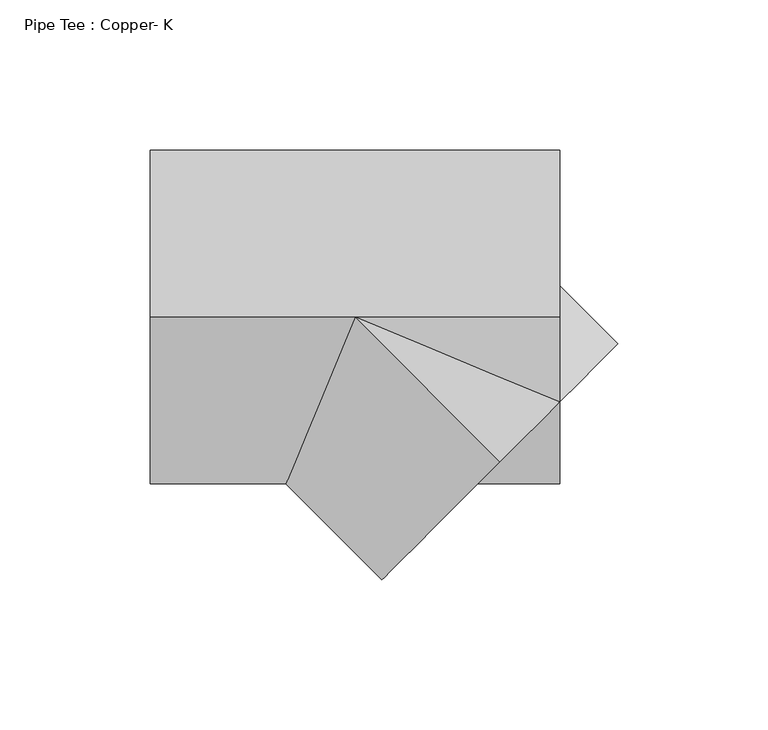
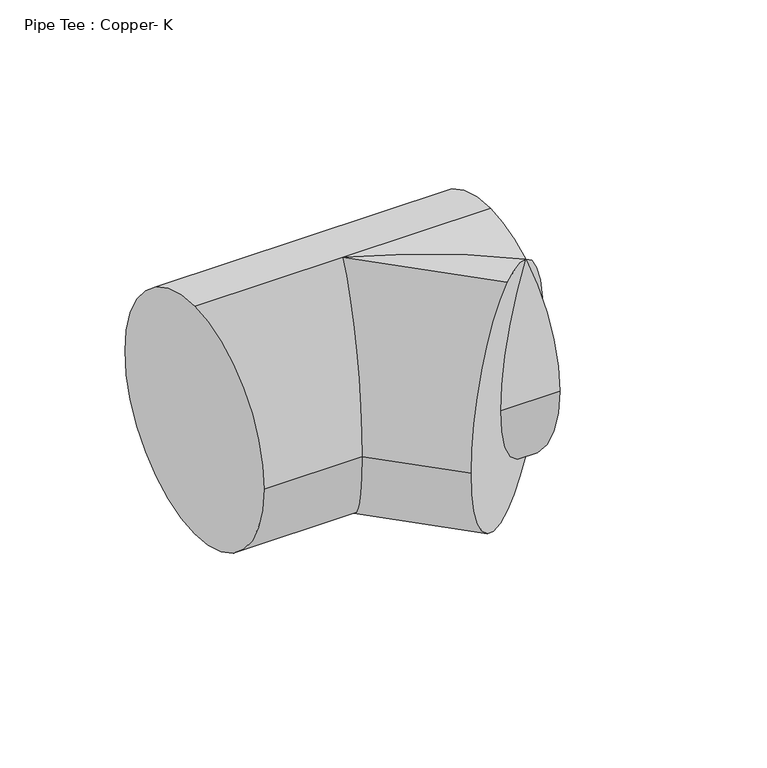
"""IFC4 building model written with IfcOpenShell, lengths in millimetres: pipe fitting geometry, Pipe Tee : Copper- K."""

from ifc_helpers import new_model, si_unit, frame, origin, place, context, project, spatial, circle_curve, ellipse_curve, source, transform, mapped, element, save
from ifc_brep_helpers import plane_surface, cylinder_surface, advanced_brep


def pipe_tee_copper_k_0c7b4938(model_context):
    return source(origin(), model_context, "Body", "AdvancedBrep", [
        advanced_brep(
        [(-68.2625, 0.0, 55.5625), (-68.2625, 55.5625, 0.0), (-68.2625, 0.0, -55.5625), (-68.2625, -55.5625, 0.0), (68.2625, 0.0, -55.5625), (68.2625, 55.5625, 0.0), (68.2625, 0.0, 55.5625), (68.2625, -28.2752533, 47.8299222), (68.2625, 10.3147411, 0.0), (68.2625, -28.2752533, -47.8299222), (68.2625, -55.5625, 0.0), (0.0, 0.0, 55.5625), (0.0, 0.0, -55.5625), (-23.0147411, -55.5625, 0.0), (40.9752533, -55.5625, 0.0), (48.2688767, -48.2688767, 55.5625), (8.9802561, -87.5574972, 0.0), (48.2688767, -48.2688767, -55.5625), (87.5574972, -8.9802561, 0.0)],
        [
            (0, 1, circle_curve(frame((-68.2625, 0.0, 0.0), z_axis=(-1.0, 0.0, 0.0), x_axis=(0.0, 1.0, 0.0)), 55.5625)),
            (1, 2, circle_curve(frame((-68.2625, 0.0, 0.0), z_axis=(-1.0, 0.0, 0.0), x_axis=(0.0, 1.0, 0.0)), 55.5625)),
            (2, 3, circle_curve(frame((-68.2625, 0.0, 0.0), z_axis=(-1.0, 0.0, 0.0), x_axis=(0.0, 1.0, 0.0)), 55.5625)),
            (3, 0, circle_curve(frame((-68.2625, 0.0, 0.0), z_axis=(-1.0, 0.0, 0.0), x_axis=(0.0, 1.0, 0.0)), 55.5625)),
            (4, 5, circle_curve(frame((68.2625, 0.0, 0.0), z_axis=(1.0, 0.0, 0.0), x_axis=(0.0, 1.0, 0.0)), 55.5625)),
            (5, 6, circle_curve(frame((68.2625, 0.0, 0.0), z_axis=(1.0, 0.0, 0.0), x_axis=(0.0, 1.0, 0.0)), 55.5625)),
            (6, 7, circle_curve(frame((68.2625, 0.0, 0.0), z_axis=(1.0, 0.0, 0.0), x_axis=(0.0, 1.0, 0.0)), 55.5625)),
            (7, 8, ellipse_curve(frame((68.2625, -68.2625, 0.0), z_axis=(-1.0, 0.0, 0.0), x_axis=(0.0, 1.0, 0.0)), 78.5772411, 55.5625)),
            (8, 9, ellipse_curve(frame((68.2625, -68.2625, 0.0), z_axis=(-1.0, 0.0, 0.0), x_axis=(0.0, 1.0, 0.0)), 78.5772411, 55.5625)),
            (9, 4, circle_curve(frame((68.2625, 0.0, 0.0), z_axis=(1.0, 0.0, 0.0), x_axis=(0.0, 1.0, 0.0)), 55.5625)),
            (7, 10, circle_curve(frame((68.2625, 0.0, 0.0), z_axis=(1.0, 0.0, 0.0), x_axis=(0.0, 1.0, 0.0)), 55.5625)),
            (10, 9, circle_curve(frame((68.2625, 0.0, 0.0), z_axis=(1.0, 0.0, 0.0), x_axis=(0.0, 1.0, 0.0)), 55.5625)),
            (9, 7),
            (0, 11),
            (11, 6),
            (5, 1),
            (4, 12),
            (12, 2),
            (12, 13, ellipse_curve(frame((0.0, 0.0, 0.0), z_axis=(-0.9238795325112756, 0.3826834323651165, 0.0), x_axis=(-0.3826834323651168, -0.9238795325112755, 0.0)), 60.1404166, 55.5625)),
            (13, 3),
            (9, 12, ellipse_curve(frame((0.0, 0.0, 0.0), z_axis=(0.38268343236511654, 0.9238795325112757, 0.0), x_axis=(-0.9238795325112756, 0.38268343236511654, 0.0)), 145.1918095, 55.5625)),
            (10, 14),
            (14, 9, ellipse_curve(frame((96.5377533, 0.0, 0.0), z_axis=(0.7071067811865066, -0.7071067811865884, 0.0), x_axis=(-0.7071067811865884, -0.7071067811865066, 0.0)), 78.5772411, 55.5625)),
            (13, 11, ellipse_curve(frame((0.0, 0.0, 0.0), z_axis=(-0.9238795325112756, 0.3826834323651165, 0.0), x_axis=(-0.3826834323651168, -0.9238795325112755, 0.0)), 60.1404166, 55.5625)),
            (11, 7, ellipse_curve(frame((0.0, 0.0, 0.0), z_axis=(0.38268343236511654, 0.9238795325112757, 0.0), x_axis=(-0.9238795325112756, 0.38268343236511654, 0.0)), 145.1918095, 55.5625)),
            (7, 14, ellipse_curve(frame((96.5377533, 0.0, 0.0), z_axis=(0.7071067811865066, -0.7071067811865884, 0.0), x_axis=(-0.7071067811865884, -0.7071067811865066, 0.0)), 78.5772411, 55.5625)),
            (15, 16, circle_curve(frame((48.2688767, -48.2688767, 0.0), z_axis=(0.7071067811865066, -0.7071067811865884, 0.0), x_axis=(0.7071067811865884, 0.7071067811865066, 0.0)), 55.5625)),
            (16, 17, circle_curve(frame((48.2688767, -48.2688767, 0.0), z_axis=(0.7071067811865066, -0.7071067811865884, 0.0), x_axis=(0.7071067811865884, 0.7071067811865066, 0.0)), 55.5625)),
            (17, 9, circle_curve(frame((48.2688767, -48.2688767, 0.0), z_axis=(0.7071067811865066, -0.7071067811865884, 0.0), x_axis=(0.7071067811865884, 0.7071067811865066, 0.0)), 55.5625)),
            (7, 15, circle_curve(frame((48.2688767, -48.2688767, 0.0), z_axis=(0.7071067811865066, -0.7071067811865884, 0.0), x_axis=(0.7071067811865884, 0.7071067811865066, 0.0)), 55.5625)),
            (18, 7, circle_curve(frame((48.2688767, -48.2688767, 0.0), z_axis=(0.7071067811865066, -0.7071067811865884, 0.0), x_axis=(0.7071067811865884, 0.7071067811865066, 0.0)), 55.5625)),
            (9, 18, circle_curve(frame((48.2688767, -48.2688767, 0.0), z_axis=(0.7071067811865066, -0.7071067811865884, 0.0), x_axis=(0.7071067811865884, 0.7071067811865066, 0.0)), 55.5625)),
            (11, 15),
            (18, 8),
            (17, 12),
            (16, 13),
        ],
        [
            plane_surface(frame((-68.2625, 0.0, 0.0), z_axis=(-1.0, 0.0, 0.0), x_axis=(0.0, 0.0, 1.0))),
            plane_surface(frame((68.2625, 0.0, 0.0), z_axis=(1.0, 0.0, 0.0), x_axis=(0.0, 0.0, 1.0))),
            cylinder_surface(frame((-68.2625, 0.0, 0.0), z_axis=(-1.0, 0.0, 0.0), x_axis=(0.0, 1.0, 0.0)), 55.5625),
            plane_surface(frame((48.2688767, -48.2688767, 0.0), z_axis=(0.7071067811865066, -0.7071067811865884, 0.0), x_axis=(0.0, 0.0, 1.0))),
            cylinder_surface(frame((0.0, 0.0, 0.0), z_axis=(-0.7071067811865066, 0.7071067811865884, 0.0), x_axis=(0.7071067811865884, 0.7071067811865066, 0.0)), 55.5625),
        ],
        [
            (0, [[1, 2, 3, 4]]),
            (1, [[5, 6, 7, 8, 9, 10]]),
            (1, [[11, 12, 13]]),
            (2, [[-1, 14, 15, -6, 16]]),
            (2, [[-2, -16, -5, 17, 18]]),
            (2, [[-3, -18, 19, 20]]),
            (2, [[-10, 21, -17]]),
            (2, [[-12, 22, 23]]),
            (2, [[-4, -20, 24, -14]]),
            (2, [[-7, -15, 25]]),
            (2, [[-11, 26, -22]]),
            (3, [[27, 28, 29, -23, -26, 30]]),
            (3, [[31, -13, 32]]),
            (4, [[33, -30, -25]]),
            (4, [[-31, 34, -8]]),
            (4, [[35, -21, -29]]),
            (4, [[-32, -9, -34]]),
            (4, [[-28, 36, -19, -35]]),
            (4, [[-27, -33, -24, -36]]),
        ],
    ),
        advanced_brep(
        [(-68.2625, 0.0, 55.5625), (-68.2625, 55.5625, 0.0), (-68.2625, 0.0, -55.5625), (-68.2625, -55.5625, 0.0), (68.2625, 0.0, -55.5625), (68.2625, 55.5625, 0.0), (68.2625, 0.0, 55.5625), (68.2625, -28.2752533, 47.8299222), (68.2625, 10.3147411, 0.0), (68.2625, -28.2752533, -47.8299222), (68.2625, -55.5625, 0.0), (0.0, 0.0, 55.5625), (0.0, 0.0, -55.5625), (-23.0147411, -55.5625, 0.0), (40.9752533, -55.5625, 0.0), (48.2688767, -48.2688767, 55.5625), (8.9802561, -87.5574972, 0.0), (48.2688767, -48.2688767, -55.5625), (87.5574972, -8.9802561, 0.0)],
        [
            (0, 1, circle_curve(frame((-68.2625, 0.0, 0.0), z_axis=(-1.0, 0.0, 0.0), x_axis=(0.0, 1.0, 0.0)), 55.5625)),
            (1, 2, circle_curve(frame((-68.2625, 0.0, 0.0), z_axis=(-1.0, 0.0, 0.0), x_axis=(0.0, 1.0, 0.0)), 55.5625)),
            (2, 3, circle_curve(frame((-68.2625, 0.0, 0.0), z_axis=(-1.0, 0.0, 0.0), x_axis=(0.0, 1.0, 0.0)), 55.5625)),
            (3, 0, circle_curve(frame((-68.2625, 0.0, 0.0), z_axis=(-1.0, 0.0, 0.0), x_axis=(0.0, 1.0, 0.0)), 55.5625)),
            (4, 5, circle_curve(frame((68.2625, 0.0, 0.0), z_axis=(1.0, 0.0, 0.0), x_axis=(0.0, 1.0, 0.0)), 55.5625)),
            (5, 6, circle_curve(frame((68.2625, 0.0, 0.0), z_axis=(1.0, 0.0, 0.0), x_axis=(0.0, 1.0, 0.0)), 55.5625)),
            (6, 7, circle_curve(frame((68.2625, 0.0, 0.0), z_axis=(1.0, 0.0, 0.0), x_axis=(0.0, 1.0, 0.0)), 55.5625)),
            (7, 8, ellipse_curve(frame((68.2625, -68.2625, 0.0), z_axis=(-1.0, 0.0, 0.0), x_axis=(0.0, 1.0, 0.0)), 78.5772411, 55.5625)),
            (8, 9, ellipse_curve(frame((68.2625, -68.2625, 0.0), z_axis=(-1.0, 0.0, 0.0), x_axis=(0.0, 1.0, 0.0)), 78.5772411, 55.5625)),
            (9, 4, circle_curve(frame((68.2625, 0.0, 0.0), z_axis=(1.0, 0.0, 0.0), x_axis=(0.0, 1.0, 0.0)), 55.5625)),
            (7, 10, circle_curve(frame((68.2625, 0.0, 0.0), z_axis=(1.0, 0.0, 0.0), x_axis=(0.0, 1.0, 0.0)), 55.5625)),
            (10, 9, circle_curve(frame((68.2625, 0.0, 0.0), z_axis=(1.0, 0.0, 0.0), x_axis=(0.0, 1.0, 0.0)), 55.5625)),
            (9, 7),
            (0, 11),
            (11, 6),
            (5, 1),
            (4, 12),
            (12, 2),
            (12, 13, ellipse_curve(frame((0.0, 0.0, 0.0), z_axis=(-0.9238795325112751, 0.382683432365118, 0.0), x_axis=(-0.3826834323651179, -0.923879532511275, 0.0)), 60.1404166, 55.5625)),
            (13, 3),
            (9, 12, ellipse_curve(frame((0.0, 0.0, 0.0), z_axis=(0.3826834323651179, 0.923879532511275, 0.0), x_axis=(-0.9238795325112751, 0.3826834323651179, 0.0)), 145.1918095, 55.5625)),
            (10, 14),
            (14, 9, ellipse_curve(frame((96.5377533, 0.0, 0.0), z_axis=(0.7071067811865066, -0.7071067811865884, 0.0), x_axis=(-0.7071067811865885, -0.7071067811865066, 0.0)), 78.5772411, 55.5625)),
            (13, 11, ellipse_curve(frame((0.0, 0.0, 0.0), z_axis=(-0.9238795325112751, 0.382683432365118, 0.0), x_axis=(-0.3826834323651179, -0.923879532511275, 0.0)), 60.1404166, 55.5625)),
            (11, 7, ellipse_curve(frame((0.0, 0.0, 0.0), z_axis=(0.3826834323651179, 0.923879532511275, 0.0), x_axis=(-0.9238795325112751, 0.3826834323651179, 0.0)), 145.1918095, 55.5625)),
            (7, 14, ellipse_curve(frame((96.5377533, 0.0, 0.0), z_axis=(0.7071067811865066, -0.7071067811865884, 0.0), x_axis=(-0.7071067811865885, -0.7071067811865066, 0.0)), 78.5772411, 55.5625)),
            (15, 16, circle_curve(frame((48.2688767, -48.2688767, 0.0), z_axis=(0.7071067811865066, -0.7071067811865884, 0.0), x_axis=(0.7071067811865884, 0.7071067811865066, 0.0)), 55.5625)),
            (16, 17, circle_curve(frame((48.2688767, -48.2688767, 0.0), z_axis=(0.7071067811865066, -0.7071067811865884, 0.0), x_axis=(0.7071067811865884, 0.7071067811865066, 0.0)), 55.5625)),
            (17, 9, circle_curve(frame((48.2688767, -48.2688767, 0.0), z_axis=(0.7071067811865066, -0.7071067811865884, 0.0), x_axis=(0.7071067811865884, 0.7071067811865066, 0.0)), 55.5625)),
            (7, 15, circle_curve(frame((48.2688767, -48.2688767, 0.0), z_axis=(0.7071067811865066, -0.7071067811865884, 0.0), x_axis=(0.7071067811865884, 0.7071067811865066, 0.0)), 55.5625)),
            (18, 7, circle_curve(frame((48.2688767, -48.2688767, 0.0), z_axis=(0.7071067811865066, -0.7071067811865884, 0.0), x_axis=(0.7071067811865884, 0.7071067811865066, 0.0)), 55.5625)),
            (9, 18, circle_curve(frame((48.2688767, -48.2688767, 0.0), z_axis=(0.7071067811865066, -0.7071067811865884, 0.0), x_axis=(0.7071067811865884, 0.7071067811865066, 0.0)), 55.5625)),
            (11, 15),
            (18, 8),
            (17, 12),
            (16, 13),
        ],
        [
            plane_surface(frame((-68.2625, 0.0, 0.0), z_axis=(-1.0, 0.0, 0.0), x_axis=(0.0, 0.0, 1.0))),
            plane_surface(frame((68.2625, 0.0, 0.0), z_axis=(1.0, 0.0, 0.0), x_axis=(0.0, 0.0, 1.0))),
            cylinder_surface(frame((-68.2625, 0.0, 0.0), z_axis=(-1.0, 0.0, 0.0), x_axis=(0.0, 1.0, 0.0)), 55.5625),
            plane_surface(frame((48.2688767, -48.2688767, 0.0), z_axis=(0.7071067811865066, -0.7071067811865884, 0.0), x_axis=(0.0, 0.0, 1.0))),
            cylinder_surface(frame((0.0, 0.0, 0.0), z_axis=(-0.7071067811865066, 0.7071067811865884, 0.0), x_axis=(0.7071067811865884, 0.7071067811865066, 0.0)), 55.5625),
        ],
        [
            (0, [[1, 2, 3, 4]]),
            (1, [[5, 6, 7, 8, 9, 10]]),
            (1, [[11, 12, 13]]),
            (2, [[-1, 14, 15, -6, 16]]),
            (2, [[-2, -16, -5, 17, 18]]),
            (2, [[-3, -18, 19, 20]]),
            (2, [[-10, 21, -17]]),
            (2, [[-12, 22, 23]]),
            (2, [[-4, -20, 24, -14]]),
            (2, [[-7, -15, 25]]),
            (2, [[-11, 26, -22]]),
            (3, [[27, 28, 29, -23, -26, 30]]),
            (3, [[31, -13, 32]]),
            (4, [[33, -30, -25]]),
            (4, [[-31, 34, -8]]),
            (4, [[35, -21, -29]]),
            (4, [[-32, -9, -34]]),
            (4, [[-28, 36, -19, -35]]),
            (4, [[-27, -33, -24, -36]]),
        ],
    ),
    ])


if __name__ == "__main__":
    model = new_model("IFC4")
    model_context = context("Model", 3, world=origin())
    ifc_project = project(units=[si_unit("LENGTHUNIT", "METRE", prefix="MILLI")], contexts=[model_context])
    site = spatial("IfcSite", under=ifc_project)
    building = spatial("IfcBuilding", under=site)
    placement = place(None, origin())
    pipe_tee_copper_k_shape = pipe_tee_copper_k_0c7b4938(model_context)
    element("IfcPipeFitting", 1, ObjectType="Pipe Tee : Copper- K", at=placement, inside=building, context=model_context, shape_type="MappedRepresentation", body=[
        mapped(pipe_tee_copper_k_shape, transform((0.0, 0.0, 0.0), x_axis=(1.0, 0.0, 0.0), y_axis=(0.0, 1.0, 0.0), z_axis=(0.0, 0.0, 1.0))),
    ])
    save(model, "model.ifc")
